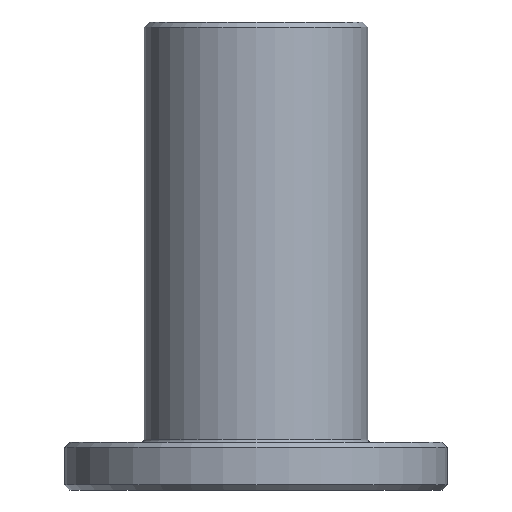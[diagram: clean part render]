
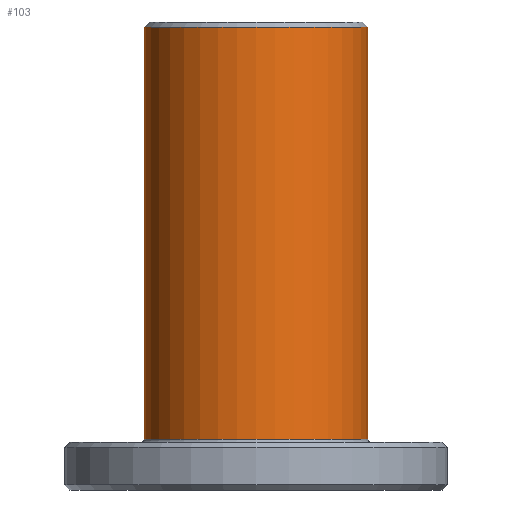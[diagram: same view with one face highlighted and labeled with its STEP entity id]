
A CAD part, front view. The second image highlights one B-rep face of the part: STEP entity #103.
In plain terms, the highlighted cylindrical face has radius 21 mm (diameter 42 mm), a full revolution.
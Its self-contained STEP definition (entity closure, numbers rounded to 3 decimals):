
#103=ADVANCED_FACE('',(#208,#209),#210,.T.);
#208=FACE_OUTER_BOUND('',#364,.T.);
#209=FACE_OUTER_BOUND('',#365,.T.);
#210=CYLINDRICAL_SURFACE('',#366,21.0);
#364=EDGE_LOOP('',(#639));
#365=EDGE_LOOP('',(#640));
#366=AXIS2_PLACEMENT_3D('',#641,#642,#643);
#639=ORIENTED_EDGE('',*,*,#886,.F.);
#640=ORIENTED_EDGE('',*,*,#887,.T.);
#641=CARTESIAN_POINT('',(0.,0.0,48.25));
#642=DIRECTION('',(0.,-0.0,1.0));
#643=DIRECTION('',(0.0,1.0,0.0));
#886=EDGE_CURVE('',#1048,#1048,#1049,.T.);
#887=EDGE_CURVE('',#1050,#1050,#1051,.T.);
#1048=VERTEX_POINT('',#1246);
#1049=CIRCLE('',#1247,21.0);
#1050=VERTEX_POINT('',#1248);
#1051=CIRCLE('',#1249,21.0);
#1246=CARTESIAN_POINT('',(0.,21.0,87.0));
#1247=AXIS2_PLACEMENT_3D('',#1476,#1477,#1478);
#1248=CARTESIAN_POINT('',(0.0,21.0,9.5));
#1249=AXIS2_PLACEMENT_3D('',#1479,#1480,#1481);
#1476=CARTESIAN_POINT('',(0.,0.0,87.0));
#1477=DIRECTION('',(0.,-0.0,1.0));
#1478=DIRECTION('',(0.0,1.0,0.0));
#1479=CARTESIAN_POINT('',(0.0,0.0,9.5));
#1480=DIRECTION('',(0.,-0.0,1.0));
#1481=DIRECTION('',(0.0,1.0,0.0));
